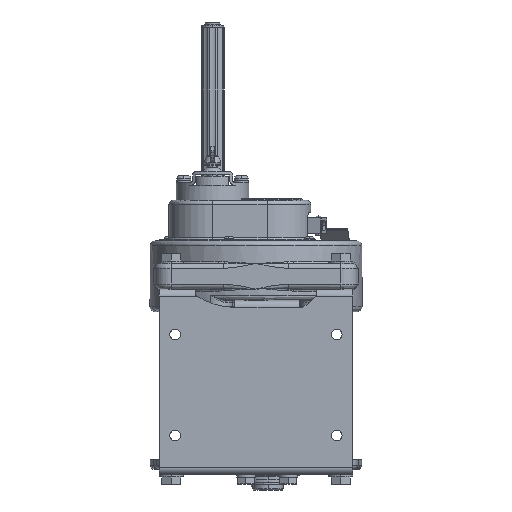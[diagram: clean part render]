
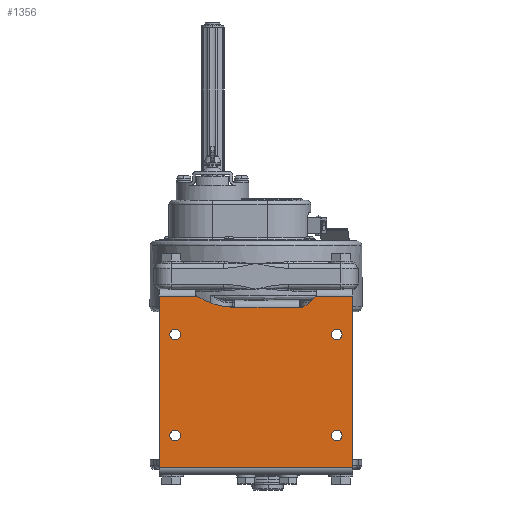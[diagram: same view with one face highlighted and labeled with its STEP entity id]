
A CAD part, front view. The second image highlights one B-rep face of the part: STEP entity #1356.
In plain terms, the highlighted planar face has unit normal (0, -1, 0).
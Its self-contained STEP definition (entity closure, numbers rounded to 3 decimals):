
#1356=ADVANCED_FACE('',(#14813,#14814,#14815,#14816,#14817),#14812,.T.);
#14812=PLANE('',#32363);
#14813=FACE_OUTER_BOUND('',#32364,.T.);
#14814=FACE_BOUND('',#32365,.T.);
#14815=FACE_BOUND('',#32366,.T.);
#14816=FACE_BOUND('',#32367,.T.);
#14817=FACE_BOUND('',#32368,.T.);
#32360=CARTESIAN_POINT('',(11.,-36.383,-212.1));
#32361=DIRECTION('',(0.,-1.,0.));
#32362=DIRECTION('',(0.,0.,1.));
#32363=AXIS2_PLACEMENT_3D('',#32360,#32361,#32362);
#32364=EDGE_LOOP('',(#47357,#47358,#47359,#47360,#47361,#47362,#47363,#47364,#47365,#47366));
#32365=EDGE_LOOP('',(#47367,#47368));
#32366=EDGE_LOOP('',(#47369,#47370));
#32367=EDGE_LOOP('',(#47371,#47372));
#32368=EDGE_LOOP('',(#47373,#47374));
#47357=ORIENTED_EDGE('',*,*,#56528,.T.);
#47358=ORIENTED_EDGE('',*,*,#56530,.T.);
#47359=ORIENTED_EDGE('',*,*,#56531,.T.);
#47360=ORIENTED_EDGE('',*,*,#56532,.T.);
#47361=ORIENTED_EDGE('',*,*,#56533,.T.);
#47362=ORIENTED_EDGE('',*,*,#56534,.T.);
#47363=ORIENTED_EDGE('',*,*,#56521,.T.);
#47364=ORIENTED_EDGE('',*,*,#56535,.F.);
#47365=ORIENTED_EDGE('',*,*,#56508,.F.);
#47366=ORIENTED_EDGE('',*,*,#56536,.T.);
#47367=ORIENTED_EDGE('',*,*,#56537,.F.);
#47368=ORIENTED_EDGE('',*,*,#56538,.F.);
#47369=ORIENTED_EDGE('',*,*,#56539,.F.);
#47370=ORIENTED_EDGE('',*,*,#56540,.F.);
#47371=ORIENTED_EDGE('',*,*,#56541,.F.);
#47372=ORIENTED_EDGE('',*,*,#56542,.F.);
#47373=ORIENTED_EDGE('',*,*,#56543,.F.);
#47374=ORIENTED_EDGE('',*,*,#56544,.F.);
#56508=EDGE_CURVE('',#82148,#82149,#82150,.T.);
#56521=EDGE_CURVE('',#82240,#82233,#82241,.T.);
#56528=EDGE_CURVE('',#82289,#82282,#82290,.T.);
#56530=EDGE_CURVE('',#82282,#82302,#82303,.T.);
#56531=EDGE_CURVE('',#82302,#82309,#82310,.T.);
#56532=EDGE_CURVE('',#82309,#82316,#82317,.T.);
#56533=EDGE_CURVE('',#82316,#82323,#82324,.T.);
#56534=EDGE_CURVE('',#82323,#82240,#82330,.T.);
#56535=EDGE_CURVE('',#82149,#82233,#82336,.T.);
#56536=EDGE_CURVE('',#82148,#82289,#82342,.T.);
#56537=EDGE_CURVE('',#82348,#82349,#82350,.T.);
#56538=EDGE_CURVE('',#82349,#82348,#82356,.T.);
#56539=EDGE_CURVE('',#82362,#82363,#82364,.T.);
#56540=EDGE_CURVE('',#82363,#82362,#82370,.T.);
#56541=EDGE_CURVE('',#82376,#82377,#82378,.T.);
#56542=EDGE_CURVE('',#82377,#82376,#82384,.T.);
#56543=EDGE_CURVE('',#82390,#82391,#82392,.T.);
#56544=EDGE_CURVE('',#82391,#82390,#82398,.T.);
#82148=VERTEX_POINT('',#111692);
#82149=VERTEX_POINT('',#111693);
#82150=LINE('',#111694,#111695);
#82233=VERTEX_POINT('',#111753);
#82240=VERTEX_POINT('',#111758);
#82241=LINE('',#111759,#111760);
#82282=VERTEX_POINT('',#111787);
#82289=VERTEX_POINT('',#111792);
#82290=LINE('',#111793,#111794);
#82302=VERTEX_POINT('',#111800);
#82303=CIRCLE('',#111804,30.);
#82309=VERTEX_POINT('',#111805);
#82310=CIRCLE('',#111809,2.);
#82316=VERTEX_POINT('',#111810);
#82317=LINE('',#111811,#111812);
#82323=VERTEX_POINT('',#111814);
#82324=CIRCLE('',#111818,2.);
#82330=CIRCLE('',#111822,70.);
#82336=LINE('',#111823,#111824);
#82342=LINE('',#111826,#111827);
#82348=VERTEX_POINT('',#111829);
#82349=VERTEX_POINT('',#111830);
#82350=CIRCLE('',#111834,5.25);
#82356=CIRCLE('',#111838,5.25);
#82362=VERTEX_POINT('',#111839);
#82363=VERTEX_POINT('',#111840);
#82364=CIRCLE('',#111844,5.25);
#82370=CIRCLE('',#111848,5.25);
#82376=VERTEX_POINT('',#111849);
#82377=VERTEX_POINT('',#111850);
#82378=CIRCLE('',#111854,5.25);
#82384=CIRCLE('',#111858,5.25);
#82390=VERTEX_POINT('',#111859);
#82391=VERTEX_POINT('',#111860);
#82392=CIRCLE('',#111864,5.25);
#82398=CIRCLE('',#111868,5.25);
#111692=CARTESIAN_POINT('',(1.,-36.383,-202.1));
#111693=CARTESIAN_POINT('',(-191.,-36.383,-202.1));
#111694=CARTESIAN_POINT('',(1.,-36.383,-202.1));
#111695=VECTOR('',#111696,192.);
#111696=DIRECTION('',(-1.,0.,0.));
#111753=CARTESIAN_POINT('',(-191.,-36.383,-32.4));
#111758=CARTESIAN_POINT('',(-153.59,-36.383,-32.4));
#111759=CARTESIAN_POINT('',(-153.59,-36.383,-32.4));
#111760=VECTOR('',#111761,37.41);
#111761=DIRECTION('',(-1.,0.,0.));
#111787=CARTESIAN_POINT('',(-35.917,-36.383,-32.4));
#111792=CARTESIAN_POINT('',(1.,-36.383,-32.4));
#111793=CARTESIAN_POINT('',(1.,-36.383,-32.4));
#111794=VECTOR('',#111795,36.917);
#111795=DIRECTION('',(-1.,0.,0.));
#111800=CARTESIAN_POINT('',(-49.234,-36.383,-43.247));
#111801=CARTESIAN_POINT('',(-60.73,-36.383,-15.537));
#111802=DIRECTION('',(0.,1.,0.));
#111803=DIRECTION('',(0.,0.,-1.));
#111804=AXIS2_PLACEMENT_3D('',#111801,#111802,#111803);
#111805=CARTESIAN_POINT('',(-50.,-36.383,-43.4));
#111806=CARTESIAN_POINT('',(-50.,-36.383,-41.4));
#111807=DIRECTION('',(0.,1.,0.));
#111808=DIRECTION('',(0.,0.,-1.));
#111809=AXIS2_PLACEMENT_3D('',#111806,#111807,#111808);
#111810=CARTESIAN_POINT('',(-118.,-36.383,-43.4));
#111811=CARTESIAN_POINT('',(-50.,-36.383,-43.4));
#111812=VECTOR('',#111813,68.);
#111813=DIRECTION('',(-1.,0.,0.));
#111814=CARTESIAN_POINT('',(-118.063,-36.383,-43.399));
#111815=CARTESIAN_POINT('',(-118.,-36.383,-41.4));
#111816=DIRECTION('',(0.,1.,0.));
#111817=DIRECTION('',(0.,0.,-1.));
#111818=AXIS2_PLACEMENT_3D('',#111815,#111816,#111817);
#111819=CARTESIAN_POINT('',(-115.868,-36.383,26.567));
#111820=DIRECTION('',(0.,1.,0.));
#111821=DIRECTION('',(0.,0.,-1.));
#111822=AXIS2_PLACEMENT_3D('',#111819,#111820,#111821);
#111823=CARTESIAN_POINT('',(-191.,-36.383,-202.1));
#111824=VECTOR('',#111825,169.7);
#111825=DIRECTION('',(0.,0.,1.));
#111826=CARTESIAN_POINT('',(1.,-36.383,-202.1));
#111827=VECTOR('',#111828,169.7);
#111828=DIRECTION('',(0.,0.,1.));
#111829=CARTESIAN_POINT('',(-15.,-36.383,-75.65));
#111830=CARTESIAN_POINT('',(-15.,-36.383,-65.15));
#111831=CARTESIAN_POINT('',(-15.,-36.383,-70.4));
#111832=DIRECTION('',(0.,-1.,0.));
#111833=DIRECTION('',(0.,0.,1.));
#111834=AXIS2_PLACEMENT_3D('',#111831,#111832,#111833);
#111835=CARTESIAN_POINT('',(-15.,-36.383,-70.4));
#111836=DIRECTION('',(0.,-1.,0.));
#111837=DIRECTION('',(0.,0.,1.));
#111838=AXIS2_PLACEMENT_3D('',#111835,#111836,#111837);
#111839=CARTESIAN_POINT('',(-175.,-36.383,-75.65));
#111840=CARTESIAN_POINT('',(-175.,-36.383,-65.15));
#111841=CARTESIAN_POINT('',(-175.,-36.383,-70.4));
#111842=DIRECTION('',(0.,-1.,0.));
#111843=DIRECTION('',(0.,0.,1.));
#111844=AXIS2_PLACEMENT_3D('',#111841,#111842,#111843);
#111845=CARTESIAN_POINT('',(-175.,-36.383,-70.4));
#111846=DIRECTION('',(0.,-1.,0.));
#111847=DIRECTION('',(0.,0.,1.));
#111848=AXIS2_PLACEMENT_3D('',#111845,#111846,#111847);
#111849=CARTESIAN_POINT('',(-175.,-36.383,-175.65));
#111850=CARTESIAN_POINT('',(-175.,-36.383,-165.15));
#111851=CARTESIAN_POINT('',(-175.,-36.383,-170.4));
#111852=DIRECTION('',(0.,-1.,0.));
#111853=DIRECTION('',(0.,0.,1.));
#111854=AXIS2_PLACEMENT_3D('',#111851,#111852,#111853);
#111855=CARTESIAN_POINT('',(-175.,-36.383,-170.4));
#111856=DIRECTION('',(0.,-1.,0.));
#111857=DIRECTION('',(0.,0.,1.));
#111858=AXIS2_PLACEMENT_3D('',#111855,#111856,#111857);
#111859=CARTESIAN_POINT('',(-15.,-36.383,-175.65));
#111860=CARTESIAN_POINT('',(-15.,-36.383,-165.15));
#111861=CARTESIAN_POINT('',(-15.,-36.383,-170.4));
#111862=DIRECTION('',(0.,-1.,0.));
#111863=DIRECTION('',(0.,0.,1.));
#111864=AXIS2_PLACEMENT_3D('',#111861,#111862,#111863);
#111865=CARTESIAN_POINT('',(-15.,-36.383,-170.4));
#111866=DIRECTION('',(0.,-1.,0.));
#111867=DIRECTION('',(0.,0.,1.));
#111868=AXIS2_PLACEMENT_3D('',#111865,#111866,#111867);
